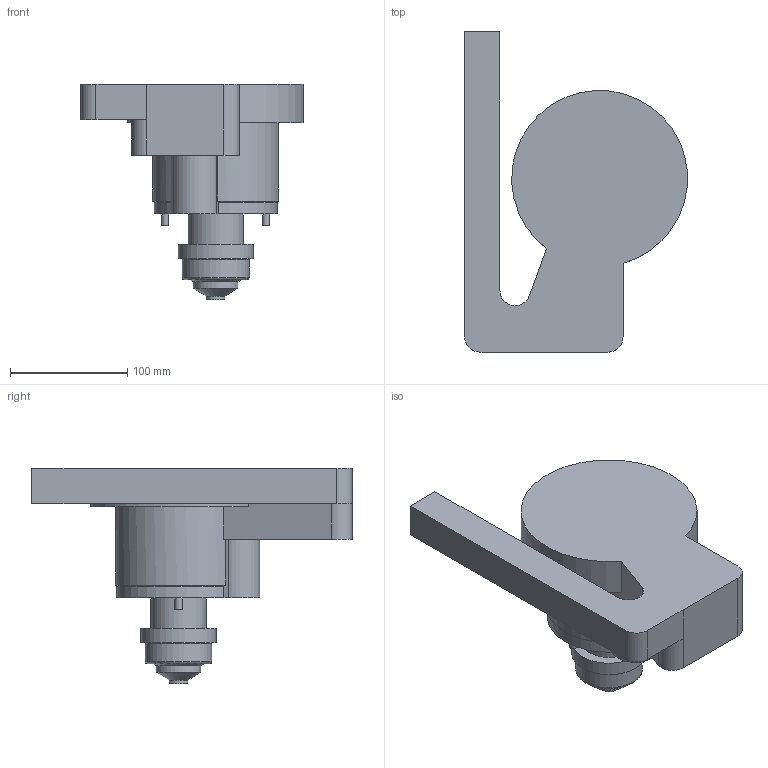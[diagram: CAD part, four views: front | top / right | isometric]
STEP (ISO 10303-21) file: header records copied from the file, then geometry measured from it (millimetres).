
FILE_DESCRIPTION( ( 'STEP AP214' ), '1' );
FILE_NAME( 'S:/PROIECTE_YUDO_2009_dupa_1.07.2009/PROIECTE YUDO 3D 01.07.2009/SAS/YUEU09-SAS32LVF151_4/YUEU09-SAS32LVF151_cutout.step', '2009-08-20T13:33:00', ( ' ' ), ( ' ' ), 'XStep 1.0', ' ', ' ' );
FILE_SCHEMA( ( 'automotive_design' ) );
Length unit declared in the file: millimetre
Products named in the file (1): 1
Bounding box: 189.74 x 273 x 183.5 mm (x, y, z)
Volume: 2134258.6 mm3; surface area: 150976.3 mm2
Topology: 1 solids, 1 shells, 40 faces, 90 edges, 58 vertices
Faces by surface type: plane 20, cylinder 15, cone 4, torus 1
Full cylindrical faces by diameter (mm): 6 x2, 16 x1, 38 x1, 47 x1, 57 x1, 64 x1
Entity records: 1404 total; most frequent: DIRECTION 194, CARTESIAN_POINT 184, ORIENTED_EDGE 158, EDGE_CURVE 79, AXIS2_PLACEMENT_3D 76, VERTEX_POINT 58, EDGE_LOOP 57, FACE_OUTER_BOUND 48
